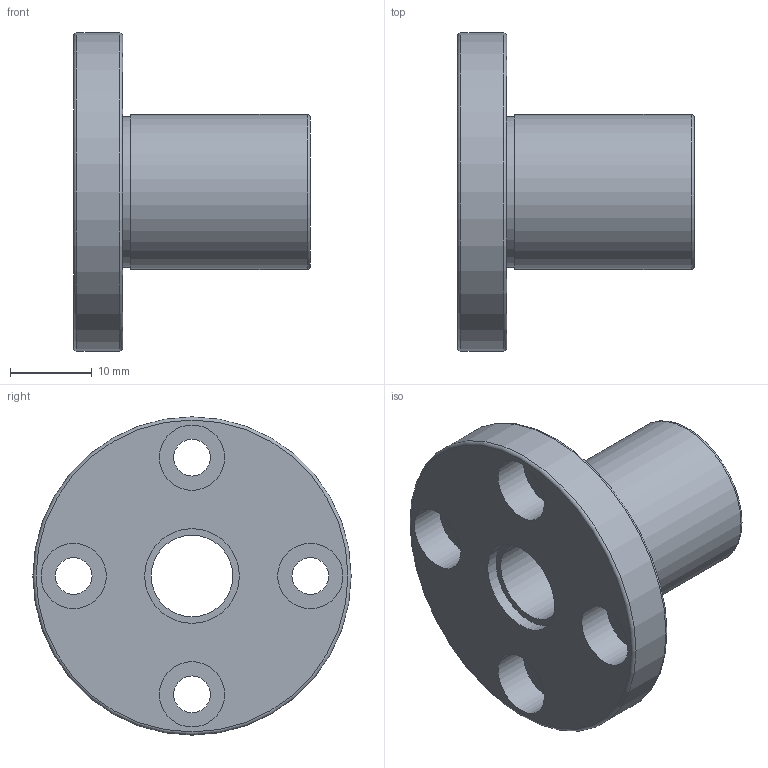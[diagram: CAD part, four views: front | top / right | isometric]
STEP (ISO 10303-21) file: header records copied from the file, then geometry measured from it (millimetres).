
FILE_DESCRIPTION( ( 'Unknown' ), '1' );
FILE_NAME( 'D:/累诀/己绕皋墨飘肺葱胶/11-04-06_档搁累己/01_府聪绢何教/LMF/LMF 10.stp', 'Unknown', ( 'Unknown' ), ( 'Unknown' ), 'PSStep 11.0', 'Unknown', ' ' );
FILE_SCHEMA( ( 'AUTOMOTIVE_DESIGN { 1 0 10303 214 1 1 1 1 }' ) );
Length unit declared in the file: millimetre
Products named in the file (1): 1
Bounding box: 29 x 39 x 39 mm (x, y, z)
Volume: 10317.8 mm3; surface area: 5652.2 mm2
Topology: 1 solids, 1 shells, 27 faces, 52 edges, 35 vertices
Faces by surface type: cylinder 14, plane 10, torus 3
Full cylindrical faces by diameter (mm): 4.5 x4, 8 x4, 10 x1, 11.6 x2, 18.4 x1, 19 x1, 39 x1
Entity records: 836 total; most frequent: DIRECTION 118, CARTESIAN_POINT 90, EDGE_LOOP 62, ORIENTED_EDGE 62, AXIS2_PLACEMENT_3D 59, FACE_OUTER_BOUND 44, EDGE_CURVE 31, VERTEX_POINT 31
